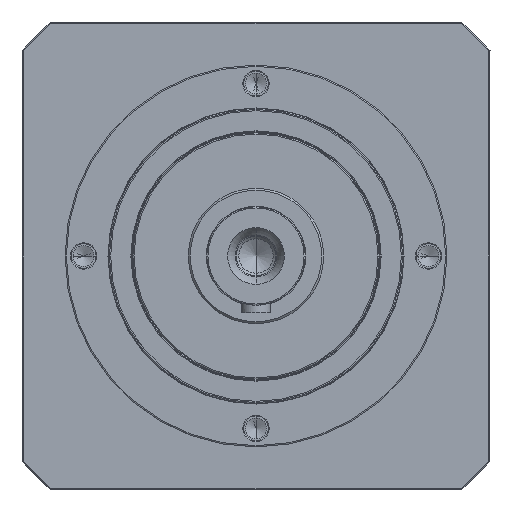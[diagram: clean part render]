
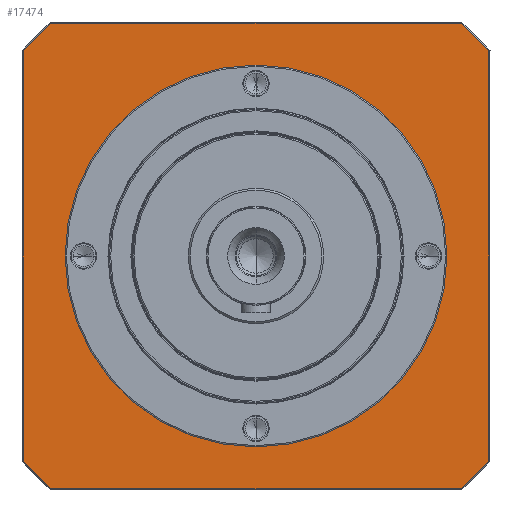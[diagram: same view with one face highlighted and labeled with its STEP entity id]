
A CAD part, left-side view. The second image highlights one B-rep face of the part: STEP entity #17474.
In plain terms, the highlighted planar face has unit normal (-1, 0, 0) as drawn and (0, 0, -1) by its records, which use the part's own axes.
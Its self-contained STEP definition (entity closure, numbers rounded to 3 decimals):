
#16356=CARTESIAN_POINT('',(0.,0.,
2.5));
#16357=DIRECTION('',(0.,0.,-1.));
#16358=DIRECTION('',(0.,-1.,0.));
#16359=AXIS2_PLACEMENT_3D('',#16356,#16357,#16358);
#16361=CARTESIAN_POINT('',(0.,0.,
2.5));
#16362=DIRECTION('',(0.,0.,-1.));
#16363=DIRECTION('',(0.,1.,0.));
#16364=AXIS2_PLACEMENT_3D('',#16361,#16362,#16363);
#16366=CARTESIAN_POINT('',(0.,0.,2.5));
#16367=DIRECTION('',(0.,0.,1.));
#16368=DIRECTION('',(-0.75,-0.661,0.));
#16369=AXIS2_PLACEMENT_3D('',#16366,#16367,#16368);
#16371=DIRECTION('',(1.,0.,0.));
#16372=VECTOR('',#16371,166.682);
#16373=CARTESIAN_POINT('',(-83.341,-94.5,
2.5));
#16374=LINE('',#16373,#16372);
#16375=CARTESIAN_POINT('',(0.,0.,2.5));
#16376=DIRECTION('',(0.,0.,1.));
#16377=DIRECTION('',(0.661,-0.75,0.));
#16378=AXIS2_PLACEMENT_3D('',#16375,#16376,#16377);
#16380=DIRECTION('',(0.,1.,0.));
#16381=VECTOR('',#16380,166.682);
#16382=CARTESIAN_POINT('',(94.5,-83.341,
2.5));
#16383=LINE('',#16382,#16381);
#16384=CARTESIAN_POINT('',(0.,0.,2.5));
#16385=DIRECTION('',(0.,0.,1.));
#16386=DIRECTION('',(0.75,0.661,0.));
#16387=AXIS2_PLACEMENT_3D('',#16384,#16385,#16386);
#16389=DIRECTION('',(-1.,0.,0.));
#16390=VECTOR('',#16389,166.682);
#16391=CARTESIAN_POINT('',(83.341,94.5,2.5));
#16392=LINE('',#16391,#16390);
#16393=CARTESIAN_POINT('',(0.,0.,2.5));
#16394=DIRECTION('',(0.,0.,1.));
#16395=DIRECTION('',(-0.661,0.75,0.));
#16396=AXIS2_PLACEMENT_3D('',#16393,#16394,#16395);
#16398=DIRECTION('',(0.,-1.,0.));
#16399=VECTOR('',#16398,166.682);
#16400=CARTESIAN_POINT('',(-94.5,83.341,
2.5));
#16401=LINE('',#16400,#16399);
#17123=CARTESIAN_POINT('',(0.,-76.5,2.5));
#17124=CARTESIAN_POINT('',(0.,76.5,
2.5));
#17125=VERTEX_POINT('',#17123);
#17126=VERTEX_POINT('',#17124);
#17227=CARTESIAN_POINT('',(-94.5,-83.341,2.5));
#17228=CARTESIAN_POINT('',(-83.341,-94.5,2.5));
#17229=VERTEX_POINT('',#17227);
#17230=VERTEX_POINT('',#17228);
#17235=CARTESIAN_POINT('',(83.341,-94.5,
2.5));
#17236=VERTEX_POINT('',#17235);
#17239=CARTESIAN_POINT('',(94.5,-83.341,2.5));
#17240=VERTEX_POINT('',#17239);
#17243=CARTESIAN_POINT('',(94.5,83.341,2.5));
#17244=VERTEX_POINT('',#17243);
#17247=CARTESIAN_POINT('',(83.341,94.5,2.5));
#17248=VERTEX_POINT('',#17247);
#17251=CARTESIAN_POINT('',(-83.341,94.5,
2.5));
#17252=VERTEX_POINT('',#17251);
#17257=CARTESIAN_POINT('',(-94.5,83.341,2.5));
#17258=VERTEX_POINT('',#17257);
#17446=CARTESIAN_POINT('',(0.,0.,2.5));
#17447=DIRECTION('',(0.,0.,1.));
#17448=DIRECTION('',(0.,1.,0.));
#17449=AXIS2_PLACEMENT_3D('',#17446,#17447,#17448);
#17450=PLANE('',#17449);
#17452=ORIENTED_EDGE('',*,*,#17451,.T.);
#17454=ORIENTED_EDGE('',*,*,#17453,.T.);
#17456=ORIENTED_EDGE('',*,*,#17455,.T.);
#17458=ORIENTED_EDGE('',*,*,#17457,.T.);
#17460=ORIENTED_EDGE('',*,*,#17459,.T.);
#17462=ORIENTED_EDGE('',*,*,#17461,.T.);
#17464=ORIENTED_EDGE('',*,*,#17463,.T.);
#17466=ORIENTED_EDGE('',*,*,#17465,.T.);
#17467=EDGE_LOOP('',(#17452,#17454,#17456,#17458,#17460,#17462,#17464,#17466));
#17468=FACE_OUTER_BOUND('',#17467,.F.);
#17470=ORIENTED_EDGE('',*,*,#17469,.T.);
#17471=ORIENTED_EDGE('',*,*,#17436,.T.);
#17472=EDGE_LOOP('',(#17470,#17471));
#17473=FACE_BOUND('',#17472,.F.);
#17474=ADVANCED_FACE('',(#17468,#17473),#17450,.F.);
#16360=CIRCLE('',#16359,76.5);
#16365=CIRCLE('',#16364,76.5);
#16370=CIRCLE('',#16369,126.);
#16379=CIRCLE('',#16378,126.);
#16388=CIRCLE('',#16387,126.);
#16397=CIRCLE('',#16396,126.);
#17436=EDGE_CURVE('',#17126,#17125,#16365,.T.);
#17451=EDGE_CURVE('',#17229,#17230,#16370,.T.);
#17453=EDGE_CURVE('',#17230,#17236,#16374,.T.);
#17455=EDGE_CURVE('',#17236,#17240,#16379,.T.);
#17457=EDGE_CURVE('',#17240,#17244,#16383,.T.);
#17459=EDGE_CURVE('',#17244,#17248,#16388,.T.);
#17461=EDGE_CURVE('',#17248,#17252,#16392,.T.);
#17463=EDGE_CURVE('',#17252,#17258,#16397,.T.);
#17465=EDGE_CURVE('',#17258,#17229,#16401,.T.);
#17469=EDGE_CURVE('',#17125,#17126,#16360,.T.);
